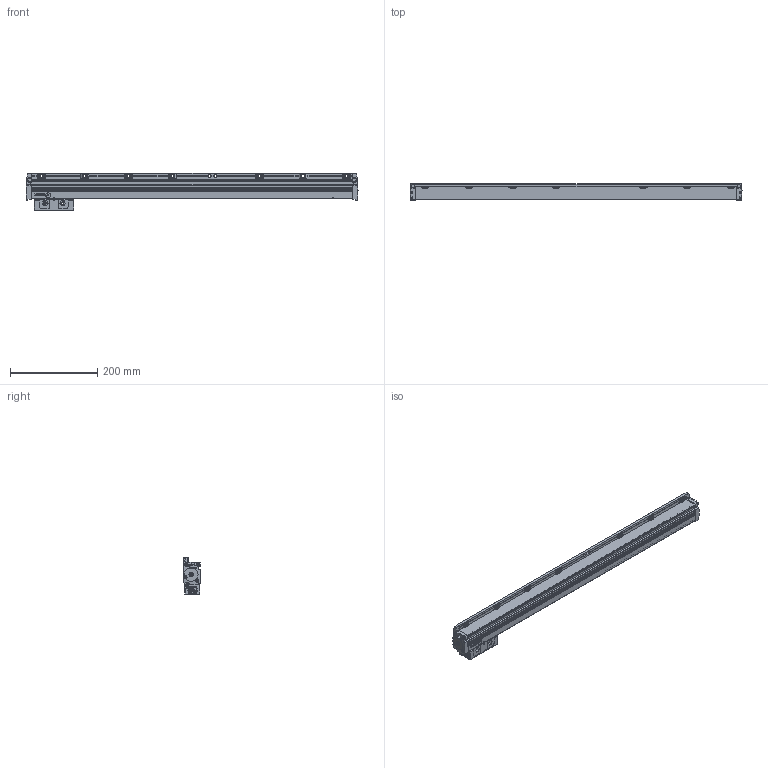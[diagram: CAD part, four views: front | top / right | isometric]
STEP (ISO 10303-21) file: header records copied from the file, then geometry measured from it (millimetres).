
FILE_DESCRIPTION(('Creo Elements/Direct Modeling STEP Export'),'2;1');
FILE_NAME('Regla G2-640-T.stp','2015-09-30T17:07:57',(''),(''),'Creo Elements/Direct Modeling STEP processor for AP214 (Solid Model)','Creo Elements/Direct Modeling 18.1G 27-Feb-2015 (C) Parametric Technology GmbH','');
FILE_SCHEMA(('AUTOMOTIVE_DESIGN { 1 0 10303 214 1 1 1 1 }'));
Length unit declared in the file: millimetre
Products named in the file (3): CABEZA; REGLA; Regla_G2_cm640-T
Assembly tree (2 placements, depth 2):
  Regla_G2_cm640-T
    REGLA
    CABEZA
Bounding box: 761 x 38 x 85 mm (x, y, z)
Volume: 1199922.2 mm3; surface area: 240173.6 mm2
Topology: 2 solids, 7 shells, 1502 faces, 4285 edges, 2788 vertices
Faces by surface type: plane 684, cylinder 612, cone 136, torus 36, bspline 30, sphere 4
Entity records: 57272 total; most frequent: CARTESIAN_POINT 18639, ORIENTED_EDGE 8554, DIRECTION 7585, EDGE_CURVE 4277, VERTEX_POINT 2788, AXIS2_PLACEMENT_3D 2735, VECTOR 2115, LINE 2115
